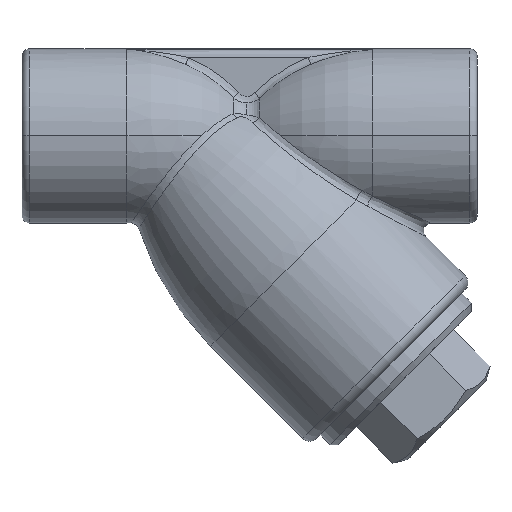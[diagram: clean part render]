
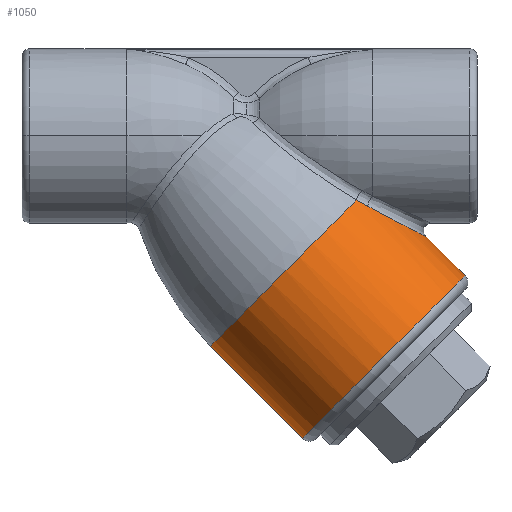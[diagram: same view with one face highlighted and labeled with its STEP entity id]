
A CAD part, top view. The second image highlights one B-rep face of the part: STEP entity #1050.
In plain terms, the highlighted cylindrical face has radius 29 mm (diameter 58 mm), a partial arc.
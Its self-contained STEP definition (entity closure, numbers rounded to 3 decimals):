
#21 = CARTESIAN_POINT ( 'NONE',  ( 66.273, -25.337, 2.024 ) ) ;
#37 = CARTESIAN_POINT ( 'NONE',  ( 65.695, -25.046, 3.975 ) ) ;
#123 = CARTESIAN_POINT ( 'NONE',  ( 51.827, -17.801, 16.19 ) ) ;
#172 = DIRECTION ( 'NONE',  ( 0.707, 0.707, 0. ) ) ;
#217 = EDGE_CURVE ( 'NONE', #2740, #2250, #504, .T. ) ;
#291 = CARTESIAN_POINT ( 'NONE',  ( 51.827, -17.801, 16.19 ) ) ;
#427 = DIRECTION ( 'NONE',  ( -0.707, -0.707, 0. ) ) ;
#447 = CARTESIAN_POINT ( 'NONE',  ( 32.609, -32.609, 0. ) ) ;
#496 = CARTESIAN_POINT ( 'NONE',  ( 12.103, -53.116, 0. ) ) ;
#504 = LINE ( 'NONE', #796, #3385 ) ;
#575 = CARTESIAN_POINT ( 'NONE',  ( 58.183, -21.194, 12.542 ) ) ;
#608 = CARTESIAN_POINT ( 'NONE',  ( 66.426, -25.414, 0. ) ) ;
#624 = FACE_OUTER_BOUND ( 'NONE', #863, .T. ) ;
#690 = DIRECTION ( 'NONE',  ( -0.707, 0.707, 0. ) ) ;
#794 = EDGE_CURVE ( 'NONE', #1137, #1480, #2734, .T. ) ;
#796 = CARTESIAN_POINT ( 'NONE',  ( 21.616, 19.396, 0. ) ) ;
#816 = ORIENTED_EDGE ( 'NONE', *, *, #1009, .T. ) ;
#863 = EDGE_LOOP ( 'NONE', ( #1571, #1647, #816, #1591, #1713, #3400 ) ) ;
#874 = DIRECTION ( 'NONE',  ( -0.707, 0.707, 0. ) ) ;
#891 = CARTESIAN_POINT ( 'NONE',  ( 66.426, -25.414, 1.025 ) ) ;
#910 = CARTESIAN_POINT ( 'NONE',  ( 60.41, -22.351, 10.828 ) ) ;
#934 = DIRECTION ( 'NONE',  ( -0.707, 0.707, 0. ) ) ;
#968 = CARTESIAN_POINT ( 'NONE',  ( 51.827, -17.801, 16.19 ) ) ;
#1001 = AXIS2_PLACEMENT_3D ( 'NONE', #447, #2656, #427 ) ;
#1009 = EDGE_CURVE ( 'NONE', #2250, #1137, #1044, .T. ) ;
#1044 = B_SPLINE_CURVE_WITH_KNOTS ( 'NONE', 3,
 ( #608, #891, #21, #37, #2263, #1657, #1132, #1437, #2246, #910, #1973, #575, #2768, #2495, #3058, #291 ),
 .UNSPECIFIED., .F., .F.,
 ( 4, 2, 2, 2, 2, 2, 2, 4 ),
 ( 0.024, 0.027, 0.03, 0.033, 0.036, 0.04, 0.043, 0.049 ),
 .UNSPECIFIED. ) ;
#1050 = ADVANCED_FACE ( 'NONE', ( #624 ), #1671, .T. ) ;
#1071 = VERTEX_POINT ( 'NONE', #1988 ) ;
#1113 = DIRECTION ( 'NONE',  ( -0.707, -0.707, 0. ) ) ;
#1132 = CARTESIAN_POINT ( 'NONE',  ( 63.73, -24.052, 7.376 ) ) ;
#1137 = VERTEX_POINT ( 'NONE', #123 ) ;
#1417 = CARTESIAN_POINT ( 'NONE',  ( 1.11, -1.11, 0. ) ) ;
#1437 = CARTESIAN_POINT ( 'NONE',  ( 62.486, -23.418, 8.856 ) ) ;
#1480 = VERTEX_POINT ( 'NONE', #2210 ) ;
#1571 = ORIENTED_EDGE ( 'NONE', *, *, #3206, .T. ) ;
#1591 = ORIENTED_EDGE ( 'NONE', *, *, #794, .T. ) ;
#1647 = ORIENTED_EDGE ( 'NONE', *, *, #217, .T. ) ;
#1657 = CARTESIAN_POINT ( 'NONE',  ( 64.307, -24.345, 6.576 ) ) ;
#1671 = CYLINDRICAL_SURFACE ( 'NONE', #2391, 29. ) ;
#1713 = ORIENTED_EDGE ( 'NONE', *, *, #2820, .F. ) ;
#1817 = CIRCLE ( 'NONE', #1001, 29. ) ;
#1835 = LINE ( 'NONE', #2374, #2910 ) ;
#1922 = EDGE_CURVE ( 'NONE', #1071, #2235, #1835, .T. ) ;
#1973 = CARTESIAN_POINT ( 'NONE',  ( 59.678, -21.973, 11.425 ) ) ;
#1988 = CARTESIAN_POINT ( 'NONE',  ( 35.355, -76.368, 0. ) ) ;
#2088 = CIRCLE ( 'NONE', #2434, 29. ) ;
#2210 = CARTESIAN_POINT ( 'NONE',  ( 49.028, -16.191, 17.375 ) ) ;
#2235 = VERTEX_POINT ( 'NONE', #496 ) ;
#2246 = CARTESIAN_POINT ( 'NONE',  ( 61.817, -23.075, 9.54 ) ) ;
#2250 = VERTEX_POINT ( 'NONE', #2522 ) ;
#2263 = CARTESIAN_POINT ( 'NONE',  ( 65.287, -24.84, 4.878 ) ) ;
#2355 = CARTESIAN_POINT ( 'NONE',  ( 49.963, -16.758, 17.027 ) ) ;
#2374 = CARTESIAN_POINT ( 'NONE',  ( -19.396, -21.616, 0. ) ) ;
#2391 = AXIS2_PLACEMENT_3D ( 'NONE', #1417, #874, #1113 ) ;
#2434 = AXIS2_PLACEMENT_3D ( 'NONE', #2636, #690, #172 ) ;
#2495 = CARTESIAN_POINT ( 'NONE',  ( 55.082, -19.561, 14.538 ) ) ;
#2522 = CARTESIAN_POINT ( 'NONE',  ( 66.426, -25.414, 0. ) ) ;
#2627 = CARTESIAN_POINT ( 'NONE',  ( 50.897, -17.293, 16.633 ) ) ;
#2636 = CARTESIAN_POINT ( 'NONE',  ( 55.861, -55.861, 0. ) ) ;
#2654 = CARTESIAN_POINT ( 'NONE',  ( 76.368, -35.355, 0. ) ) ;
#2656 = DIRECTION ( 'NONE',  ( -0.707, 0.707, 0. ) ) ;
#2734 = B_SPLINE_CURVE_WITH_KNOTS ( 'NONE', 3,
 ( #968, #2627, #2355, #2947 ),
 .UNSPECIFIED., .F., .F.,
 ( 4, 4 ),
 ( 0., 0.003 ),
 .UNSPECIFIED. ) ;
#2740 = VERTEX_POINT ( 'NONE', #2654 ) ;
#2768 = CARTESIAN_POINT ( 'NONE',  ( 57.418, -20.794, 13.063 ) ) ;
#2820 = EDGE_CURVE ( 'NONE', #2235, #1480, #1817, .T. ) ;
#2910 = VECTOR ( 'NONE', #934, 1000. ) ;
#2947 = CARTESIAN_POINT ( 'NONE',  ( 49.028, -16.191, 17.375 ) ) ;
#3058 = CARTESIAN_POINT ( 'NONE',  ( 53.471, -18.699, 15.406 ) ) ;
#3206 = EDGE_CURVE ( 'NONE', #1071, #2740, #2088, .T. ) ;
#3385 = VECTOR ( 'NONE', #3566, 1000. ) ;
#3400 = ORIENTED_EDGE ( 'NONE', *, *, #1922, .F. ) ;
#3566 = DIRECTION ( 'NONE',  ( -0.707, 0.707, 0. ) ) ;
